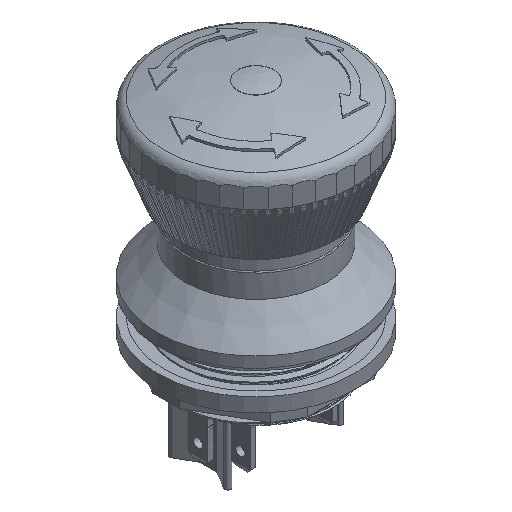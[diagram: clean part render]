
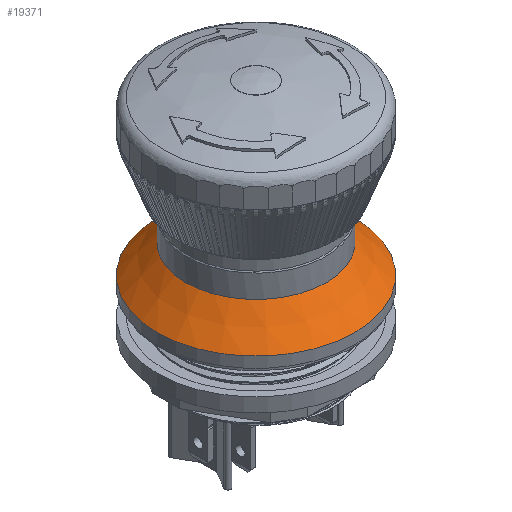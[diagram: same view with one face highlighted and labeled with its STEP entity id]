
A CAD part, isometric view. The second image highlights one B-rep face of the part: STEP entity #19371.
In plain terms, the highlighted conical face has half-angle 45 degrees and reference radius 11.963 mm.
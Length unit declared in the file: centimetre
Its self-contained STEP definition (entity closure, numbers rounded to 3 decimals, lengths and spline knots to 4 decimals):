
#629=CONICAL_SURFACE('',#20544,1.1962,0.785);
#1461=FACE_OUTER_BOUND('',#2557,.T.);
#2557=EDGE_LOOP('',(#13037,#13038,#13039,#13040));
#3600=CIRCLE('',#20543,0.9925);
#3601=CIRCLE('',#20545,1.4);
#5399=LINE('',#38130,#6365);
#6365=VECTOR('',#23009,1.1962);
#7509=VERTEX_POINT('',#38124);
#7510=VERTEX_POINT('',#38128);
#9598=EDGE_CURVE('',#7509,#7509,#3600,.T.);
#9600=EDGE_CURVE('',#7510,#7510,#3601,.T.);
#9601=EDGE_CURVE('',#7510,#7509,#5399,.T.);
#13037=ORIENTED_EDGE('',*,*,#9600,.F.);
#13038=ORIENTED_EDGE('',*,*,#9601,.T.);
#13039=ORIENTED_EDGE('',*,*,#9598,.T.);
#13040=ORIENTED_EDGE('',*,*,#9601,.F.);
#19371=ADVANCED_FACE('',(#1461),#629,.T.);
#20543=AXIS2_PLACEMENT_3D('',#38125,#23002,#23003);
#20544=AXIS2_PLACEMENT_3D('',#38127,#23005,#23006);
#20545=AXIS2_PLACEMENT_3D('',#38129,#23007,#23008);
#23002=DIRECTION('center_axis',(0.,0.,-1.));
#23003=DIRECTION('ref_axis',(0.,-1.,0.));
#23005=DIRECTION('center_axis',(0.,0.,-1.));
#23006=DIRECTION('ref_axis',(0.,-1.,0.));
#23007=DIRECTION('center_axis',(0.,0.,-1.));
#23008=DIRECTION('ref_axis',(0.,-1.,0.));
#23009=DIRECTION('',(0.,-0.707,0.707));
#38124=CARTESIAN_POINT('',(0.,0.9925,1.4425));
#38125=CARTESIAN_POINT('Origin',(0.,0.,
1.4425));
#38127=CARTESIAN_POINT('Origin',(0.,0.,
1.2387));
#38128=CARTESIAN_POINT('',(0.,1.4,1.035));
#38129=CARTESIAN_POINT('Origin',(0.,0.,
1.035));
#38130=CARTESIAN_POINT('',(0.,1.1962,1.2387));
